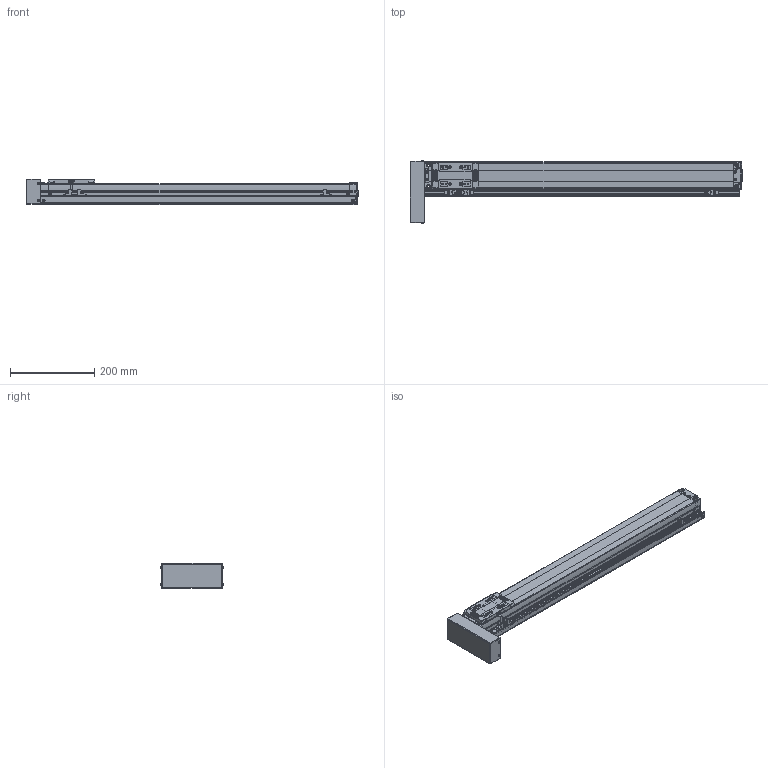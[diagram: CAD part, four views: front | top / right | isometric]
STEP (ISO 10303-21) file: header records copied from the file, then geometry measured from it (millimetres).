
FILE_DESCRIPTION(('STEP AP203'),'1');
FILE_NAME('Z:/Web/3D/SAN65/2012.ver/STP/600/SAN65ㅁㅁ-600PR+3SR.stp','2014-06-13T04:47:07',(' '),(' '),'Spatial InterOp 3D',' ',' ');
FILE_SCHEMA(('CONFIG_CONTROL_DESIGN'));
Length unit declared in the file: millimetre
Products named in the file (46): 1; 2; 3; 4; 5; 6; 7; 8; 9; 10; 11; 12; 13; 14; 15; 16; 17; 18; 19; 20; 21; 22; 23; 24; 25; 26; 27; 28; 29; 30; 31; 32; 33; 34; 35; 36; 37; 38; 39; 40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
Bounding box: 790.15 x 149.13 x 61 mm (x, y, z)
Volume: 2772135.8 mm3; surface area: 388788.8 mm2
Topology: 46 solids, 46 shells, 2324 faces, 6050 edges, 3901 vertices
Faces by surface type: plane 1292, cylinder 721, cone 199, sphere 60, bspline 28, torus 18, extrusion 6
Full cylindrical faces by diameter (mm): 2.132 x1, 3.5 x2, 6 x2
Entity records: 75593 total; most frequent: CARTESIAN_POINT 15271, DIRECTION 12522, ORIENTED_EDGE 11892, EDGE_CURVE 5946, AXIS2_PLACEMENT_3D 4348, VERTEX_POINT 3900, VECTOR 3826, LINE 3820
